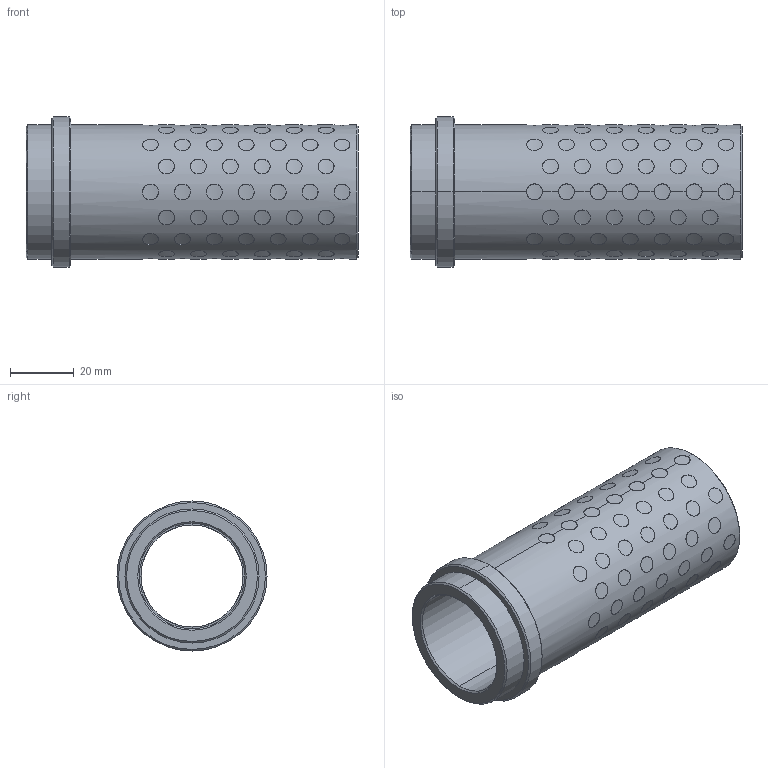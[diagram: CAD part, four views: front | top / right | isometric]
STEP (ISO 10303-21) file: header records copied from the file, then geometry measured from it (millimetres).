
FILE_DESCRIPTION((''),'2;1');
FILE_NAME('G31232096','2017-12-30T',('MANU'),(''),'PRO/ENGINEER BY PARAMETRIC TECHNOLOGY CORPORATION, 2012130','PRO/ENGINEER BY PARAMETRIC TECHNOLOGY CORPORATION, 2012130','');
FILE_SCHEMA(('CONFIG_CONTROL_DESIGN'));
Length unit declared in the file: millimetre
Products named in the file (1): G31232096
Bounding box: 104 x 47 x 47 mm (x, y, z)
Volume: 60506.2 mm3; surface area: 42264.5 mm2
Topology: 105 solids, 105 shells, 651 faces, 1386 edges, 920 vertices
Faces by surface type: cylinder 634, cone 12, plane 5
Entity records: 32688 total; most frequent: CARTESIAN_POINT 20015, ORIENTED_EDGE 2772, DIRECTION 1832, EDGE_CURVE 1386, VERTEX_POINT 920, B_SPLINE_CURVE_WITH_KNOTS 888, EDGE_LOOP 836, AXIS2_PLACEMENT_3D 683
